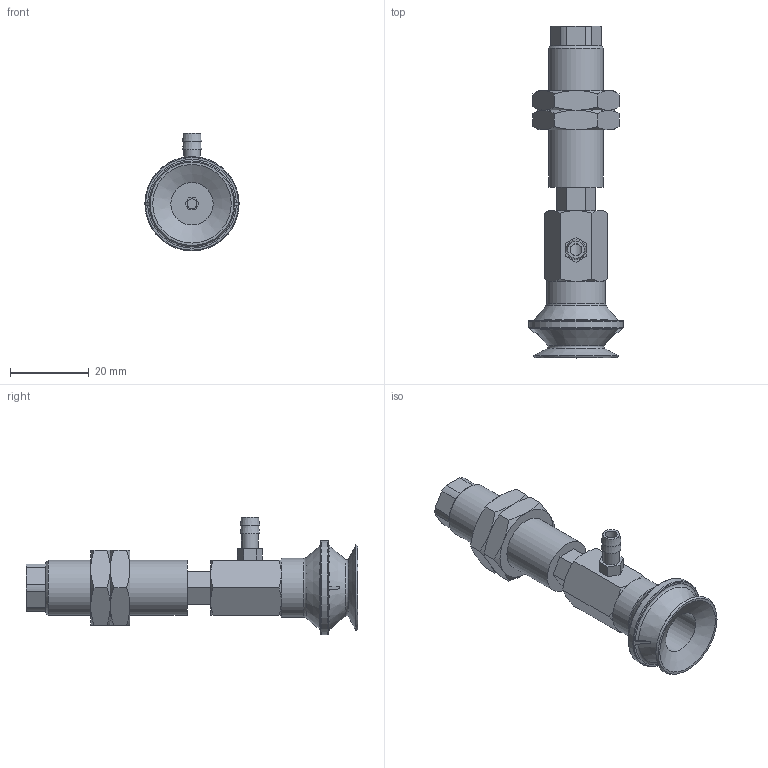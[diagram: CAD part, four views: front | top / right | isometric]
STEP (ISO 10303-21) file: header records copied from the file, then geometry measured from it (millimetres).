
FILE_DESCRIPTION(('STEP AP203'),'1');
FILE_NAME('-T.stp','2025-04-02T02:08:22',(' '),(' '),'Spatial InterOp 3D',' ',' ');
FILE_SCHEMA(('CONFIG_CONTROL_DESIGN'));
Length unit declared in the file: millimetre
Products named in the file (8): BNABPBYH-20-6-※-T; Adapter20-T-NAPB; CONNECTOR-20-6-PB; Nut-20-S-PB; NAPBTH-20-6-FBODY; NAPBTH-20-6-MBODY; BPBG-20-※; T
Assembly tree (8 placements, depth 2):
  BNABPBYH-20-6-※-T
    Adapter20-T-NAPB
    CONNECTOR-20-6-PB
    Nut-20-S-PB  x2
    NAPBTH-20-6-FBODY
    NAPBTH-20-6-MBODY
    BPBG-20-※
    T
Bounding box: 24 x 84.5 x 30 mm (x, y, z)
Volume: 14496.3 mm3; surface area: 11469.5 mm2
Topology: 8 solids, 8 shells, 183 faces, 405 edges, 251 vertices
Faces by surface type: plane 91, cone 59, cylinder 24, torus 9
Full cylindrical faces by diameter (mm): 2.5 x1, 3 x2, 4.134 x3, 4.3 x1, 4.6 x1, 5 x3, 10.8 x1, 11 x1, 12.917 x2, 14 x1, 15 x1, 24 x1
Entity records: 4802 total; most frequent: CARTESIAN_POINT 1055, DIRECTION 706, ORIENTED_EDGE 612, EDGE_CURVE 306, AXIS2_PLACEMENT_3D 283, EDGE_LOOP 228, VERTEX_POINT 214, FACE_OUTER_BOUND 184
